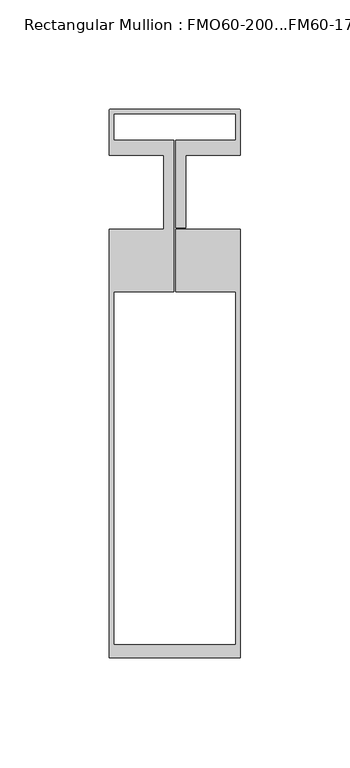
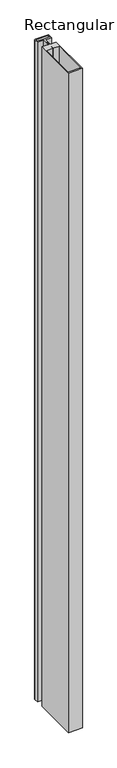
"""IFC4 building model written with IfcOpenShell, lengths in millimetres: member geometry, Rectangular Mullion : FMO60-200...FM60-17."""

import ifcopenshell
import ifcopenshell.guid

model = None  # the IFC model being written
_history = None  # IfcOwnerHistory: only IFC2X3 demands one
_inside = {}  # id of a spatial element -> (the spatial element, [elements in it])
_under = {}  # id of a project, library or spatial element -> (it, [spatial elements below it])
_declared = {}  # id of a project -> (the project, [libraries it declares])
_typed = {}  # id of a type object -> (the type object, [elements of that type])
_made_of = {}  # id of a material, layer set ... -> (it, [elements and type objects made of it])


def new_model(schema):
    """Start an empty IFC model of exactly this schema.

    Asked for "IFC4X3", IfcOpenShell would pick the latest addendum, in which some entities
    have other attributes; the version numbers below select the first issue.
    IFC2X3 requires an IfcOwnerHistory on every rooted entity: one is made here for all.
    """
    global model, _history
    if schema == "IFC4X3":
        model = ifcopenshell.file(schema_version=(4, 3, 0, 0))
    else:
        model = ifcopenshell.file(schema=schema)
    _inside.clear()
    _under.clear()
    _declared.clear()
    _typed.clear()
    _made_of.clear()
    _history = None
    if model.schema == "IFC2X3":
        org = make("IfcOrganization", Name="unknown")
        user = make(
            "IfcPersonAndOrganization",
            ThePerson=make("IfcPerson", FamilyName="unknown"),
            TheOrganization=org,
        )
        app = make(
            "IfcApplication",
            ApplicationDeveloper=org,
            Version="unknown",
            ApplicationFullName="unknown",
            ApplicationIdentifier="unknown",
        )
        _history = make(
            "IfcOwnerHistory",
            OwningUser=user,
            OwningApplication=app,
            ChangeAction="ADDED",
            CreationDate=0,
        )
    return model


def make(cls, **values):
    """One entity of the class cls with the attributes given. An attribute that is None is left unset."""
    return model.create_entity(
        cls, **{name: value for name, value in values.items() if value is not None}
    )


def rooted(cls, **values):
    """An entity with a GlobalId (a new one), such as an element, a storey or a relation."""
    return make(cls, GlobalId=ifcopenshell.guid.new(), OwnerHistory=_history, **values)


def si_unit(unit_type, name, prefix=None):
    """IfcSIUnit, for example si_unit("LENGTHUNIT", "METRE", prefix="MILLI")."""
    return make("IfcSIUnit", UnitType=unit_type, Prefix=prefix, Name=name)


def assignment(units):
    """IfcUnitAssignment: the units of a project."""
    return None if units is None else make("IfcUnitAssignment", Units=units)


def point(xyz):
    """IfcCartesianPoint."""
    return None if xyz is None else make("IfcCartesianPoint", Coordinates=xyz)


def direction(xyz):
    """IfcDirection."""
    return None if xyz is None else make("IfcDirection", DirectionRatios=xyz)


def frame(location, z_axis=None, x_axis=None):
    """IfcAxis2Placement3D, a coordinate frame: its origin and axes. An axis left out is left unset."""
    return make(
        "IfcAxis2Placement3D",
        Location=point(location),
        Axis=direction(z_axis),
        RefDirection=direction(x_axis),
    )


def frame_2d(location, x_axis=None):
    """IfcAxis2Placement2D, a coordinate frame in the plane: its origin and x axis."""
    return make(
        "IfcAxis2Placement2D", Location=point(location), RefDirection=direction(x_axis)
    )


def origin():
    """The frame at (0, 0, 0) with its axes left unset."""
    return frame((0.0, 0.0, 0.0))


def place(relative_to, where):
    """IfcLocalPlacement: puts the frame where relative to a parent placement (None: the world)."""
    return make(
        "IfcLocalPlacement", PlacementRelTo=relative_to, RelativePlacement=where
    )


def context(
    kind, dimensions, precision=None, world=None, true_north=None, identifier=None
):
    """IfcGeometricRepresentationContext, for example the 3D "Model" context."""
    return make(
        "IfcGeometricRepresentationContext",
        ContextIdentifier=identifier,
        ContextType=kind,
        CoordinateSpaceDimension=dimensions,
        Precision=precision,
        WorldCoordinateSystem=world,
        TrueNorth=true_north,
    )


def project(units=None, contexts=None):
    """IfcProject with its units and contexts."""
    return rooted(
        "IfcProject",
        Name="project",
        RepresentationContexts=contexts,
        UnitsInContext=assignment(units),
    )


def spatial(cls, under=None, at=None, **own):
    """A site, building, storey or space (cls), placed at a placement, below another one or the project."""
    s = rooted(cls, ObjectPlacement=at, **own)
    if under is not None:
        _under.setdefault(under.id(), (under, []))[1].append(s)
    return s


def polyline(points):
    """IfcPolyline through the points."""
    return make("IfcPolyline", Points=[point(p) for p in points])


def circle_curve(where, radius):
    """IfcCircle in the frame where."""
    return make("IfcCircle", Position=where, Radius=radius)


def trimmed(basis, trim1, trim2, sense, master):
    """IfcTrimmedCurve: the piece of a basis curve between two trims."""
    return make(
        "IfcTrimmedCurve",
        BasisCurve=basis,
        Trim1=trim1,
        Trim2=trim2,
        SenseAgreement=sense,
        MasterRepresentation=master,
    )


def segment(curve, same_sense, transition):
    """IfcCompositeCurveSegment."""
    return make(
        "IfcCompositeCurveSegment",
        Transition=transition,
        SameSense=same_sense,
        ParentCurve=curve,
    )


def composite_curve(segments, self_intersect=None):
    """IfcCompositeCurve: segments joined end to end."""
    return make("IfcCompositeCurve", Segments=segments, SelfIntersect=self_intersect)


def outline(outer, holes=None, kind="AREA"):
    """IfcArbitraryClosedProfileDef: a profile drawn as a closed curve; with holes, ...WithVoids."""
    if holes is None:
        return make("IfcArbitraryClosedProfileDef", ProfileType=kind, OuterCurve=outer)
    return make(
        "IfcArbitraryProfileDefWithVoids",
        ProfileType=kind,
        OuterCurve=outer,
        InnerCurves=holes,
    )


def extrude(swept, where, along, depth):
    """IfcExtrudedAreaSolid: the profile swept, set in the frame where, extruded along a direction by depth."""
    return make(
        "IfcExtrudedAreaSolid",
        SweptArea=swept,
        Position=where,
        ExtrudedDirection=direction(along),
        Depth=depth,
    )


def shape(context_of_items, identifier, shape_type, items):
    """IfcShapeRepresentation: the items that make up one representation, for example the "Body"."""
    return make(
        "IfcShapeRepresentation",
        ContextOfItems=context_of_items,
        RepresentationIdentifier=identifier,
        RepresentationType=shape_type,
        Items=items,
    )


def source(mapping_origin, context_of_items, identifier, shape_type, items):
    """IfcRepresentationMap: a shape defined once, which mapped items show again and again."""
    return make(
        "IfcRepresentationMap",
        MappingOrigin=mapping_origin,
        MappedRepresentation=shape(context_of_items, identifier, shape_type, items),
    )


def transform(
    local_origin,
    x_axis=None,
    y_axis=None,
    z_axis=None,
    scale=None,
    scale2=None,
    scale3=None,
    uniform=True,
):
    """IfcCartesianTransformationOperator3D, or its non-uniform kind. x_axis, y_axis, z_axis: its Axis1, 2, 3."""
    if uniform:
        return make(
            "IfcCartesianTransformationOperator3D",
            Axis1=direction(x_axis),
            Axis2=direction(y_axis),
            LocalOrigin=point(local_origin),
            Scale=scale,
            Axis3=direction(z_axis),
        )
    return make(
        "IfcCartesianTransformationOperator3DnonUniform",
        Axis1=direction(x_axis),
        Axis2=direction(y_axis),
        LocalOrigin=point(local_origin),
        Scale=scale,
        Axis3=direction(z_axis),
        Scale2=scale2,
        Scale3=scale3,
    )


def mapped(mapping_source, mapping_target):
    """IfcMappedItem: shows the shape of a source again, moved by a transform."""
    return make(
        "IfcMappedItem", MappingSource=mapping_source, MappingTarget=mapping_target
    )


def made_of(thing, what):
    """Note that an element or type object is made of a material, layer set ...; save() writes the relation."""
    if what is not None:
        _made_of.setdefault(what.id(), (what, []))[1].append(thing)
    return thing


def element(
    cls,
    number,
    at=None,
    inside=None,
    cuts=None,
    type_object=None,
    material=None,
    context=None,
    identifier="Body",
    shape_type=None,
    held_by="IfcProductDefinitionShape",
    body=None,
    shapes=None,
    **own,
):
    """One element of the class cls, such as IfcWall. Its Tag is "e" and its number.

    at: its placement. inside: the storey or other place that contains it. cuts: it is an
    opening in that element (IfcRelVoidsElement). A single representation is given by context,
    identifier, shape_type and body (its items); several are given by shapes. held_by: the class
    of the entity that holds the representations. save() writes the other relations.
    """
    e = rooted(cls, Tag="e%d" % number, ObjectPlacement=at, **own)
    if body is not None:
        shapes = [shape(context, identifier, shape_type, body)]
    if shapes is not None:
        e.Representation = make(held_by, Representations=shapes)
    if inside is not None:
        _inside.setdefault(inside.id(), (inside, []))[1].append(e)
    if cuts is not None:
        rooted(
            "IfcRelVoidsElement", RelatingBuildingElement=cuts, RelatedOpeningElement=e
        )
    if type_object is not None:
        _typed.setdefault(type_object.id(), (type_object, []))[1].append(e)
    return made_of(e, material)


def aggregate(whole, parts):
    """IfcRelAggregates: a whole, such as a stair, and the parts it consists of."""
    return rooted("IfcRelAggregates", RelatingObject=whole, RelatedObjects=parts)


def save(model, path):
    """Write the relations noted so far, then the file.

    IfcRelAggregates (storeys below a building ...), IfcRelContainedInSpatialStructure (elements
    in a storey), IfcRelDefinesByType, IfcRelAssociatesMaterial and IfcRelDeclares: one each for
    every whole, place, type object, material and project.
    """
    for whole, parts in _under.values():
        aggregate(whole, parts)
    for where, things in _inside.values():
        rooted(
            "IfcRelContainedInSpatialStructure",
            RelatedElements=things,
            RelatingStructure=where,
        )
    for kind, things in _typed.values():
        rooted("IfcRelDefinesByType", RelatedObjects=things, RelatingType=kind)
    for what, things in _made_of.values():
        rooted("IfcRelAssociatesMaterial", RelatedObjects=things, RelatingMaterial=what)
    for by, libraries in _declared.values():
        rooted("IfcRelDeclares", RelatingContext=by, RelatedDefinitions=libraries)
    model.write(path)


def rectangular_mullion_fmo60_200_fm60_17_2a329e26(model_context):
    return source(origin(), model_context, "Body", "SweptSolid", [
        extrude(outline(composite_curve([segment(polyline([(-29.5, 38.0025783), (29.5, 38.0025783)]), True, "CONTINUOUS"), segment(trimmed(circle_curve(frame_2d((29.5, 37.5025783)), 0.5), [point((29.5, 38.0025783))], [point((30.0, 37.5025783))], False, "CARTESIAN"), True, "CONTINUOUS"), segment(polyline([(30.0, 37.5025783), (30.0, 17.0), (5.0, 17.0), (5.0, -16.2), (0.5, -16.2), (0.5, 23.8476589), (28.0000412, 23.8476589), (28.0000412, 36.0025783), (-28.0000412, 36.0025783), (-28.0000412, 23.8476589), (-0.5, 23.8476589), (-0.5, -45.5034642), (-28.0, -45.5034642), (-28.0, -207.009342), (28.0, -207.009342), (28.0, -45.5034642), (0.5, -45.5034642), (0.5, -17.0), (30.0, -17.0), (30.0, -213.009342), (-30.0, -213.009342), (-30.0, -17.0), (-5.0, -17.0), (-5.0, 17.0), (-30.0, 17.0), (-30.0, 37.5025783)]), True, "CONTINUOUS"), segment(trimmed(circle_curve(frame_2d((-29.5, 37.5025783)), 0.5), [point((-30.0, 37.5025783))], [point((-29.5, 38.0025783))], False, "CARTESIAN"), True, "CONTINUOUS")], self_intersect=False)), frame((0.0, 0.0, -3000.0), z_axis=(0.0, 0.0, 1.0), x_axis=(1.0, 0.0, 0.0)), (0.0, 0.0, 1.0), 3000.0),
    ])


if __name__ == "__main__":
    model = new_model("IFC4")
    model_context = context("Model", 3, world=origin())
    ifc_project = project(units=[si_unit("LENGTHUNIT", "METRE", prefix="MILLI")], contexts=[model_context])
    site = spatial("IfcSite", under=ifc_project)
    building = spatial("IfcBuilding", under=site)
    placement = place(None, origin())
    rectangular_mullion_fmo60_200_fm60_17_shape = rectangular_mullion_fmo60_200_fm60_17_2a329e26(model_context)
    element("IfcMember", 1, ObjectType="Rectangular Mullion : FMO60-200...FM60-17", at=placement, inside=building, context=model_context, shape_type="MappedRepresentation", body=[
        mapped(rectangular_mullion_fmo60_200_fm60_17_shape, transform((0.0, 0.0, 0.0), x_axis=(1.0, 0.0, 0.0), y_axis=(0.0, 1.0, 0.0), z_axis=(0.0, 0.0, 1.0))),
    ])
    save(model, "model.ifc")
